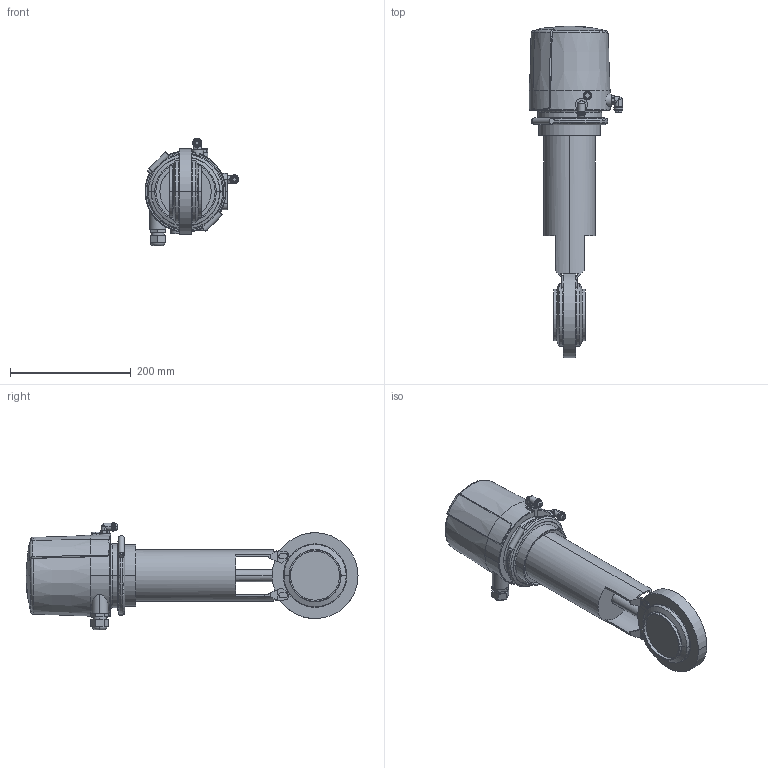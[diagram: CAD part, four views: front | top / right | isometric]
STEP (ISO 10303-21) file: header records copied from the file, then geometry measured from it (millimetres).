
FILE_DESCRIPTION(('Creo Elements/Direct Modeling STEP Export'),'2;1');
FILE_NAME('SV1-80-CU4-12S.stp','2013-10-15T10:08:13',(''),(''),'Creo Elements/Direct Modeling STEP processor for AP214 (Solid Model)','Creo Elements/Direct Modeling 17.0D 15-Jul-2011 (C) Parametric Technology GmbH','');
FILE_SCHEMA(('AUTOMOTIVE_DESIGN { 1 0 10303 214 1 1 1 1 }'));
Length unit declared in the file: millimetre
Products named in the file (3): CU41-mit-T-Adapter; SV1-80-FZ-12S; SV1-80-CU4-12S
Assembly tree (2 placements, depth 2):
  SV1-80-CU4-12S
    SV1-80-FZ-12S
    CU41-mit-T-Adapter
Bounding box: 155.4 x 549.12 x 177.6 mm (x, y, z)
Volume: 3594163.1 mm3; surface area: 267281.1 mm2
Topology: 2 solids, 8 shells, 451 faces, 1124 edges, 710 vertices
Faces by surface type: plane 209, cylinder 139, torus 47, cone 40, bspline 10, sphere 6
Entity records: 21344 total; most frequent: CARTESIAN_POINT 10343, ORIENTED_EDGE 2260, DIRECTION 1995, EDGE_CURVE 1122, AXIS2_PLACEMENT_3D 755, VERTEX_POINT 710, EDGE_LOOP 500, VECTOR 485
